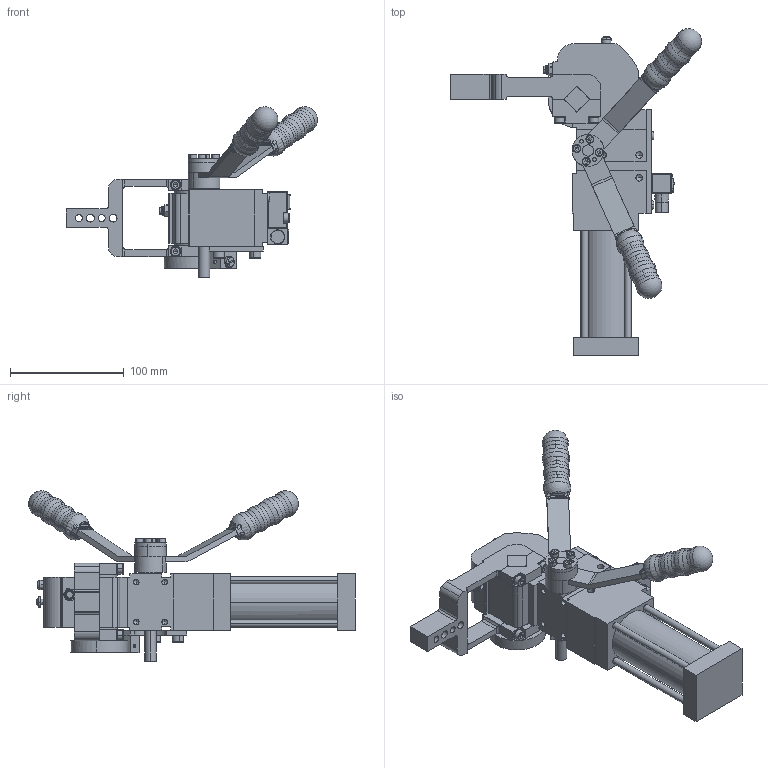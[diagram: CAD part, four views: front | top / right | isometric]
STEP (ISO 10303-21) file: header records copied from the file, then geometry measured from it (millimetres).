
FILE_DESCRIPTION((''),'2;1');
FILE_NAME('S:\Matthew\Step Files (Power Clamps) v.3.14\XSM Power Clamps\XSM140 HO-LR.stp','2006-07-27T15:15:28',('Matthew'),(''),'Autodesk Inventor 8','Autodesk Inventor 8','');
FILE_SCHEMA(('AUTOMOTIVE_DESIGN { 1 0 10303 214 1 1 1 1 }'));
Length unit declared in the file: millimetre
Products named in the file (6): XSM140 HO-LR; XSM140 HO-LR1; XSM140 HO-LR2; XSM140 HO-LR3; XSM140 HO-LR4; XSM140 HO-LR5
Assembly tree (5 placements, depth 2):
  XSM140 HO-LR
    XSM140 HO-LR1
    XSM140 HO-LR2
    XSM140 HO-LR3
    XSM140 HO-LR4
    XSM140 HO-LR5
Bounding box: 220.81 x 287.34 x 149.81 mm (x, y, z)
Volume: 926065.7 mm3; surface area: 150892.2 mm2
Topology: 5 solids, 18 shells, 1195 faces, 3220 edges, 2025 vertices
Faces by surface type: plane 547, cylinder 315, bspline 198, cone 89, sphere 34, torus 12
Entity records: 43093 total; most frequent: CARTESIAN_POINT 13659, DIRECTION 6208, ORIENTED_EDGE 6188, EDGE_CURVE 3094, AXIS2_PLACEMENT_3D 2348, VERTEX_POINT 2009, VECTOR 1512, LINE 1512
